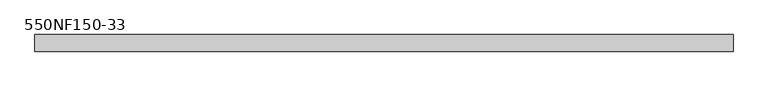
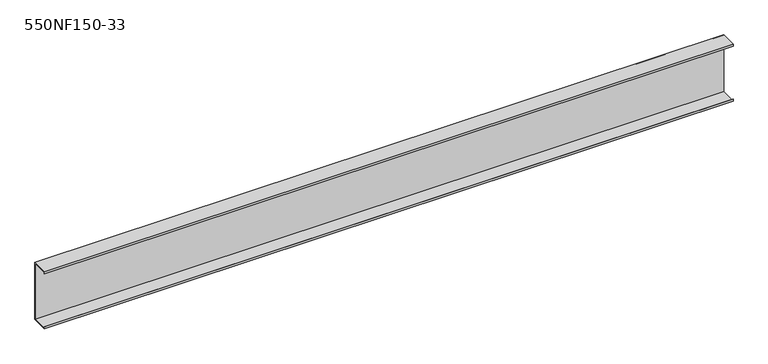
"""IFC4 building model written with IfcOpenShell, lengths in millimetres: beam geometry, BIMSF-SSMA-S : 550NF150-33."""

from ifc_helpers import new_model, si_unit, frame, origin, place, context, project, spatial, polyline, outline, extrude, source, transform, mapped, element, save


def beam_550nf150_33_0f8e2ec6(model_context):
    return source(origin(), model_context, "Body", "SweptSolid", [
        extrude(outline(polyline([(19.05, 69.85), (19.05, -69.85), (-19.05, -69.85), (-19.05, -65.0748), (-18.1676842, -65.0748), (-18.1676842, -68.9676842), (18.1676842, -68.9676842), (18.1676842, 68.9676842), (-18.1676842, 68.9676842), (-18.1676842, 65.0748), (-19.05, 65.0748), (-19.05, 69.85), (19.05, 69.85)])), frame((-800.1, 0.0, 0.0), z_axis=(1.0, 0.0, 0.0), x_axis=(0.0, 1.0, 0.0)), (0.0, 0.0, 1.0), 1600.2),
    ])


if __name__ == "__main__":
    model = new_model("IFC4")
    model_context = context("Model", 3, world=origin())
    ifc_project = project(units=[si_unit("LENGTHUNIT", "METRE", prefix="MILLI")], contexts=[model_context])
    site = spatial("IfcSite", under=ifc_project)
    building = spatial("IfcBuilding", under=site)
    placement = place(None, origin())
    beam_550nf150_33_shape = beam_550nf150_33_0f8e2ec6(model_context)
    element("IfcBeam", 1, ObjectType="BIMSF-SSMA-S : 550NF150-33", at=placement, inside=building, context=model_context, shape_type="MappedRepresentation", body=[
        mapped(beam_550nf150_33_shape, transform((0.0, 0.0, 0.0), x_axis=(1.0, 0.0, 0.0), y_axis=(0.0, 1.0, 0.0), z_axis=(0.0, 0.0, 1.0))),
    ])
    save(model, "model.ifc")
